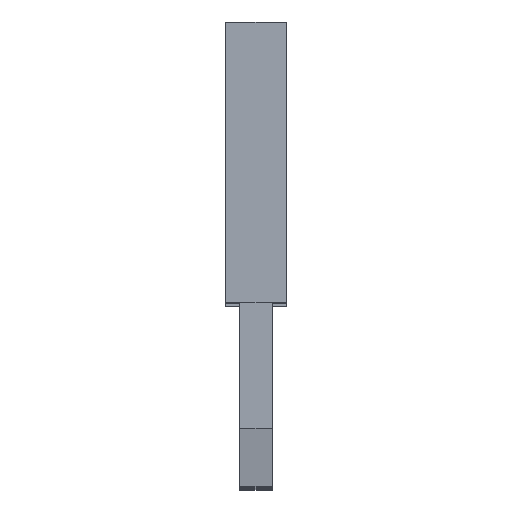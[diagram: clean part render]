
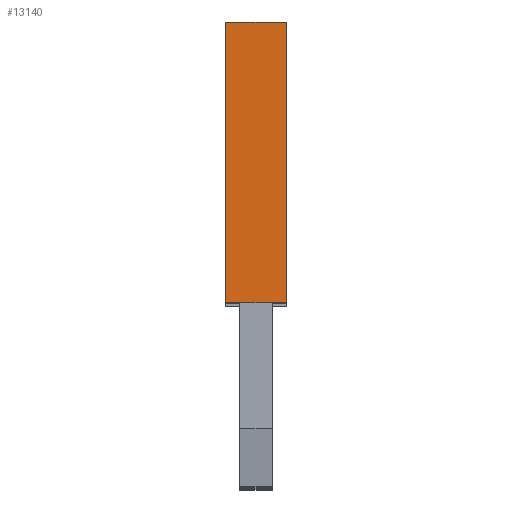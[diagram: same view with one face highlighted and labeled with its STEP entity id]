
A CAD part, top view. The second image highlights one B-rep face of the part: STEP entity #13140.
In plain terms, the highlighted planar face has unit normal (0, 0, 1).
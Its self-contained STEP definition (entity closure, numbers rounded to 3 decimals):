
#6280=CARTESIAN_POINT('',(5.607,-22.775,
120.76));
#6290=VERTEX_POINT('',#6280);
#6320=CARTESIAN_POINT('',(5.607,-12.305,120.76))
;
#6330=DIRECTION('',(0.,1.,0.));
#6340=VECTOR('',#6330,1.);
#6350=LINE('',#6320,#6340);
#6360=CARTESIAN_POINT('',(5.607,-8.875,
120.76));
#6370=VERTEX_POINT('',#6360);
#6380=EDGE_CURVE('',#6290,#6370,#6350,.T.);
#6680=CARTESIAN_POINT('',(2.607,-8.875,
120.76));
#6690=VERTEX_POINT('',#6680);
#6720=CARTESIAN_POINT('',(2.607,-12.305,120.76))
;
#6730=DIRECTION('',(0.,1.,0.));
#6740=VECTOR('',#6730,1.);
#6750=LINE('',#6720,#6740);
#6760=CARTESIAN_POINT('',(2.607,-22.775,
120.76));
#6770=VERTEX_POINT('',#6760);
#6780=EDGE_CURVE('',#6770,#6690,#6750,.T.);
#12930=CARTESIAN_POINT('',(5.607,-9.175,
120.76));
#12940=DIRECTION('',(0.,-0.,1.));
#12950=DIRECTION('',(0.,1.,0.));
#12960=AXIS2_PLACEMENT_3D('',#12930,#12940,#12950);
#12970=PLANE('',#12960);
#12980=CARTESIAN_POINT('',(5.607,-22.775,
120.76));
#12990=DIRECTION('',(-1.,0.,0.));
#13000=VECTOR('',#12990,1.);
#13010=LINE('',#12980,#13000);
#13020=EDGE_CURVE('',#6290,#6770,#13010,.T.);
#13030=ORIENTED_EDGE('',*,*,#13020,.F.);
#13040=ORIENTED_EDGE('',*,*,#6780,.F.);
#13050=CARTESIAN_POINT('',(5.607,-8.875,
120.76));
#13060=DIRECTION('',(1.,0.,0.));
#13070=VECTOR('',#13060,1.);
#13080=LINE('',#13050,#13070);
#13090=EDGE_CURVE('',#6690,#6370,#13080,.T.);
#13100=ORIENTED_EDGE('',*,*,#13090,.F.);
#13110=ORIENTED_EDGE('',*,*,#6380,.T.);
#13120=EDGE_LOOP('',(#13110,#13100,#13040,#13030));
#13130=FACE_OUTER_BOUND('',#13120,.T.);
#13140=ADVANCED_FACE('',(#13130),#12970,.T.);
